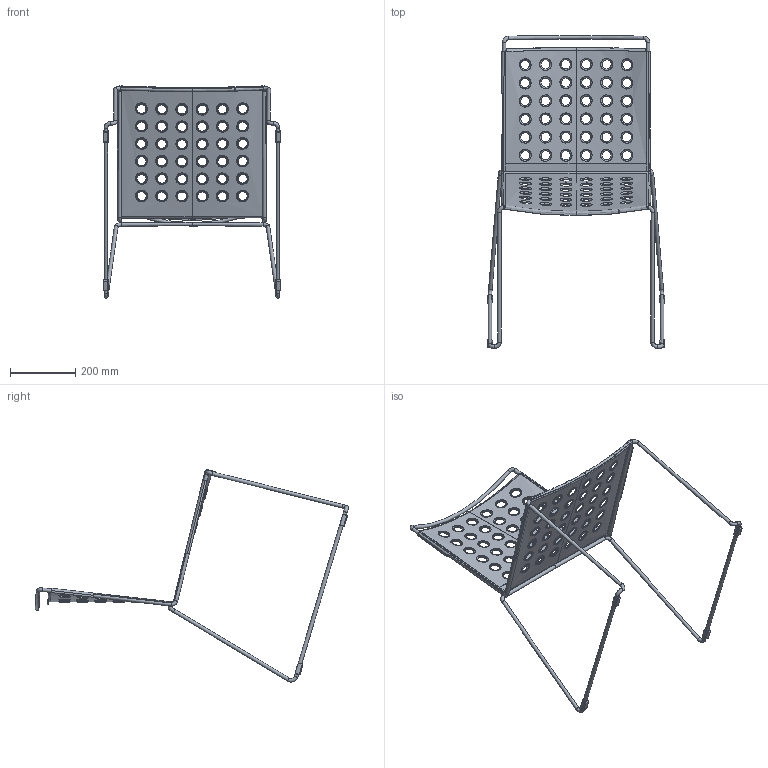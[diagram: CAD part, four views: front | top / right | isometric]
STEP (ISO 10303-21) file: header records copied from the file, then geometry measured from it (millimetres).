
FILE_DESCRIPTION(('STEP AP203'),'1');
FILE_NAME('Sedia Busy.step','2018-07-12T13:30:39',(' '),(' '),'Spatial InterOp 3D',' ',' ');
FILE_SCHEMA(('CONFIG_CONTROL_DESIGN'));
Length unit declared in the file: millimetre
Products named in the file (1): 1
Bounding box: 544.59 x 961.07 x 651.24 mm (x, y, z)
Volume: 1345515.7 mm3; surface area: 915063 mm2
Topology: 7 solids, 7 shells, 1661 faces, 4297 edges, 2671 vertices
Faces by surface type: cylinder 537, plane 498, bspline 458, torus 162, extrusion 4, offset 2
Full cylindrical faces by diameter (mm): 11 x12, 36 x4, 37 x8
Entity records: 82137 total; most frequent: CARTESIAN_POINT 49804, ORIENTED_EDGE 7750, DIRECTION 4796, EDGE_CURVE 3875, VERTEX_POINT 2502, B_SPLINE_CURVE_WITH_KNOTS 2376, AXIS2_PLACEMENT_3D 2260, EDGE_LOOP 2079
